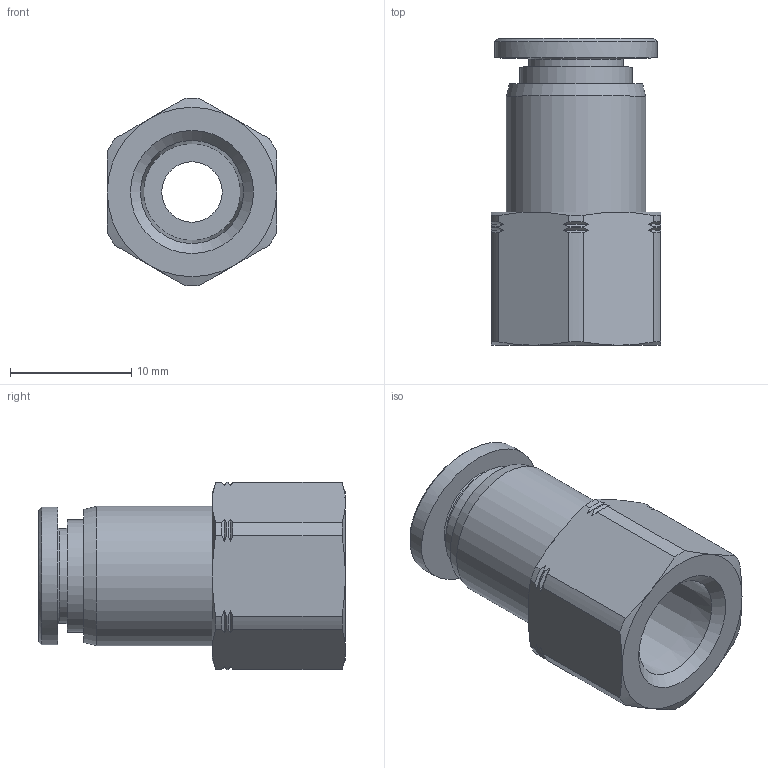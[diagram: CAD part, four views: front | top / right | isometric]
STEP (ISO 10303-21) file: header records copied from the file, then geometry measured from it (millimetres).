
FILE_DESCRIPTION((''),'2;1');
FILE_NAME('C:\Users\user0117\Desktop\김진일\G-FITTING INCH\1-4\카탈로그\G-FITTING INCH (STEP)\GPCF 1_4-R01.stp','2020-04-13T13:33:55',('user0117'),(''),'Autodesk Inventor 2013','Autodesk Inventor 2013','');
FILE_SCHEMA(('AUTOMOTIVE_DESIGN { 1 0 10303 214 1 1 1 1 }'));
Length unit declared in the file: millimetre
Products named in the file (5): GPCF 1_4-R01; GPCF BODY 1_4-R01(BRASS); G-COLLAR G1-4C; COLLAR G1-4C; SLEEVE G1-4
Assembly tree (4 placements, depth 3):
  GPCF 1_4-R01
    GPCF BODY 1_4-R01(BRASS)
    G-COLLAR G1-4C
      COLLAR G1-4C
      SLEEVE G1-4
Bounding box: 14 x 25.35 x 15.49 mm (x, y, z)
Volume: 2234.6 mm3; surface area: 2096.5 mm2
Topology: 3 solids, 3 shells, 199 faces, 518 edges, 341 vertices
Faces by surface type: plane 105, cone 41, cylinder 31, bspline 22
Full cylindrical faces by diameter (mm): 5 x1, 6.55 x3, 7.85 x1, 9.3 x1, 11.5 x1
Entity records: 6414 total; most frequent: CARTESIAN_POINT 1635, ORIENTED_EDGE 1002, DIRECTION 923, EDGE_CURVE 501, VERTEX_POINT 337, AXIS2_PLACEMENT_3D 315, VECTOR 293, LINE 293
